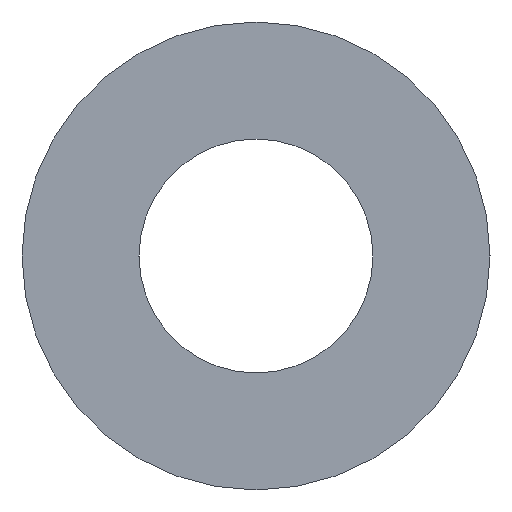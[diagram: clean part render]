
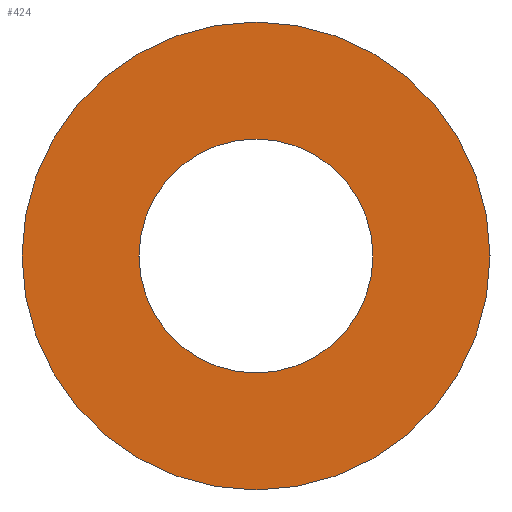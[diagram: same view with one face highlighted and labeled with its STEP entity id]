
A CAD part, left-side view. The second image highlights one B-rep face of the part: STEP entity #424.
In plain terms, the highlighted planar face has unit normal (-1, 0, 0).
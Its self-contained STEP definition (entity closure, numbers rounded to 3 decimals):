
#301 = CYLINDRICAL_SURFACE('',#302,8.);
#302 = AXIS2_PLACEMENT_3D('',#303,#304,#305);
#303 = CARTESIAN_POINT('',(46.,0.,0.));
#304 = DIRECTION('',(-1.,-0.,0.));
#305 = DIRECTION('',(-0.,0.,-1.));
#370 = EDGE_CURVE('',#371,#371,#373,.T.);
#371 = VERTEX_POINT('',#372);
#372 = CARTESIAN_POINT('',(0.,0.,-8.));
#373 = SURFACE_CURVE('',#374,(#379,#386),.PCURVE_S1.);
#374 = CIRCLE('',#375,8.);
#375 = AXIS2_PLACEMENT_3D('',#376,#377,#378);
#376 = CARTESIAN_POINT('',(0.,0.,0.));
#377 = DIRECTION('',(1.,0.,-0.));
#378 = DIRECTION('',(-0.,0.,-1.));
#379 = PCURVE('',#301,#380);
#380 = DEFINITIONAL_REPRESENTATION('',(#381),#385);
#381 = LINE('',#382,#383);
#382 = CARTESIAN_POINT('',(6.283,46.));
#383 = VECTOR('',#384,1.);
#384 = DIRECTION('',(-1.,0.));
#385 = ( GEOMETRIC_REPRESENTATION_CONTEXT(2) 
PARAMETRIC_REPRESENTATION_CONTEXT() REPRESENTATION_CONTEXT('2D SPACE',''
  ) );
#386 = PCURVE('',#387,#392);
#387 = PLANE('',#388);
#388 = AXIS2_PLACEMENT_3D('',#389,#390,#391);
#389 = CARTESIAN_POINT('',(0.,8.,0.));
#390 = DIRECTION('',(-1.,0.,0.));
#391 = DIRECTION('',(0.,0.,1.));
#392 = DEFINITIONAL_REPRESENTATION('',(#393),#401);
#393 = ( BOUNDED_CURVE() B_SPLINE_CURVE(2,(#394,#395,#396,#397,#398,#399
,#400),.UNSPECIFIED.,.T.,.F.) B_SPLINE_CURVE_WITH_KNOTS((1,2,2,2,2,1),(
    -2.094,0.,2.094,4.189,6.283,
8.378),.UNSPECIFIED.) CURVE() GEOMETRIC_REPRESENTATION_ITEM() 
RATIONAL_B_SPLINE_CURVE((1.,0.5,1.,0.5,1.,0.5,1.)) REPRESENTATION_ITEM(
  '') );
#394 = CARTESIAN_POINT('',(-8.,-8.));
#395 = CARTESIAN_POINT('',(-8.,5.856));
#396 = CARTESIAN_POINT('',(4.,-1.072));
#397 = CARTESIAN_POINT('',(16.,-8.));
#398 = CARTESIAN_POINT('',(4.,-14.928));
#399 = CARTESIAN_POINT('',(-8.,-21.856));
#400 = CARTESIAN_POINT('',(-8.,-8.));
#401 = ( GEOMETRIC_REPRESENTATION_CONTEXT(2) 
PARAMETRIC_REPRESENTATION_CONTEXT() REPRESENTATION_CONTEXT('2D SPACE',''
  ) );
#424 = ADVANCED_FACE('',(#425,#460),#387,.T.);
#425 = FACE_BOUND('',#426,.T.);
#426 = EDGE_LOOP('',(#427));
#427 = ORIENTED_EDGE('',*,*,#428,.T.);
#428 = EDGE_CURVE('',#429,#429,#431,.T.);
#429 = VERTEX_POINT('',#430);
#430 = CARTESIAN_POINT('',(0.,0.,-4.));
#431 = SURFACE_CURVE('',#432,(#437,#448),.PCURVE_S1.);
#432 = CIRCLE('',#433,4.);
#433 = AXIS2_PLACEMENT_3D('',#434,#435,#436);
#434 = CARTESIAN_POINT('',(0.,0.,0.));
#435 = DIRECTION('',(1.,0.,-0.));
#436 = DIRECTION('',(-0.,0.,-1.));
#437 = PCURVE('',#387,#438);
#438 = DEFINITIONAL_REPRESENTATION('',(#439),#447);
#439 = ( BOUNDED_CURVE() B_SPLINE_CURVE(2,(#440,#441,#442,#443,#444,#445
,#446),.UNSPECIFIED.,.T.,.F.) B_SPLINE_CURVE_WITH_KNOTS((1,2,2,2,2,1),(
    -2.094,0.,2.094,4.189,6.283,
8.378),.UNSPECIFIED.) CURVE() GEOMETRIC_REPRESENTATION_ITEM() 
RATIONAL_B_SPLINE_CURVE((1.,0.5,1.,0.5,1.,0.5,1.)) REPRESENTATION_ITEM(
  '') );
#440 = CARTESIAN_POINT('',(-4.,-8.));
#441 = CARTESIAN_POINT('',(-4.,-1.072));
#442 = CARTESIAN_POINT('',(2.,-4.536));
#443 = CARTESIAN_POINT('',(8.,-8.));
#444 = CARTESIAN_POINT('',(2.,-11.464));
#445 = CARTESIAN_POINT('',(-4.,-14.928));
#446 = CARTESIAN_POINT('',(-4.,-8.));
#447 = ( GEOMETRIC_REPRESENTATION_CONTEXT(2) 
PARAMETRIC_REPRESENTATION_CONTEXT() REPRESENTATION_CONTEXT('2D SPACE',''
  ) );
#448 = PCURVE('',#449,#454);
#449 = CYLINDRICAL_SURFACE('',#450,4.);
#450 = AXIS2_PLACEMENT_3D('',#451,#452,#453);
#451 = CARTESIAN_POINT('',(46.,0.,0.));
#452 = DIRECTION('',(-1.,-0.,0.));
#453 = DIRECTION('',(-0.,0.,-1.));
#454 = DEFINITIONAL_REPRESENTATION('',(#455),#459);
#455 = LINE('',#456,#457);
#456 = CARTESIAN_POINT('',(6.283,46.));
#457 = VECTOR('',#458,1.);
#458 = DIRECTION('',(-1.,0.));
#459 = ( GEOMETRIC_REPRESENTATION_CONTEXT(2) 
PARAMETRIC_REPRESENTATION_CONTEXT() REPRESENTATION_CONTEXT('2D SPACE',''
  ) );
#460 = FACE_BOUND('',#461,.T.);
#461 = EDGE_LOOP('',(#462));
#462 = ORIENTED_EDGE('',*,*,#370,.F.);
